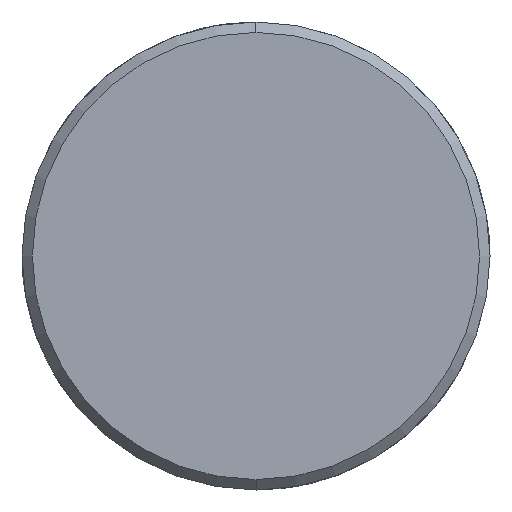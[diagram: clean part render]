
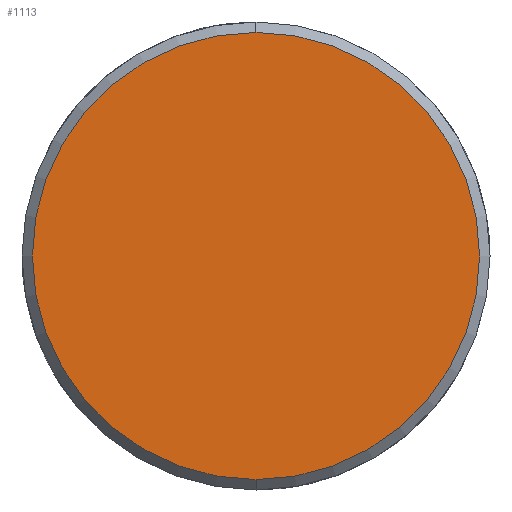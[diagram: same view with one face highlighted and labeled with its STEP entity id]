
A CAD part, left-side view. The second image highlights one B-rep face of the part: STEP entity #1113.
In plain terms, the highlighted planar face has unit normal (-1, 0, 0).
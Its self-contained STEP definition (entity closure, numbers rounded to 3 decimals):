
#1045=CARTESIAN_POINT('Vertex',(-7.,0.,-21.5)) ;
#1048=CARTESIAN_POINT('Axis2P3D Location',(-7.,0.,0.)) ;
#1052=CARTESIAN_POINT('Vertex',(-7.,21.5,0.)) ;
#1055=CARTESIAN_POINT('Axis2P3D Location',(-7.,0.,0.)) ;
#1059=CARTESIAN_POINT('Vertex',(-7.,0.,21.5)) ;
#1081=CARTESIAN_POINT('Axis2P3D Location',(-7.,0.,0.)) ;
#1085=CARTESIAN_POINT('Vertex',(-7.,-21.5,0.)) ;
#1088=CARTESIAN_POINT('Axis2P3D Location',(-7.,0.,0.)) ;
#1102=CARTESIAN_POINT('Axis2P3D Location',(-7.,0.,0.)) ;
#1049=DIRECTION('Axis2P3D Direction',(1.,0.,-0.)) ;
#1056=DIRECTION('Axis2P3D Direction',(1.,0.,-0.)) ;
#1082=DIRECTION('Axis2P3D Direction',(1.,0.,-0.)) ;
#1089=DIRECTION('Axis2P3D Direction',(1.,0.,-0.)) ;
#1103=DIRECTION('Axis2P3D Direction',(1.,0.,-0.)) ;
#1104=DIRECTION('Axis2P3D XDirection',(-0.,0.,-1.)) ;
#1050=AXIS2_PLACEMENT_3D('Circle Axis2P3D',#1048,#1049,$) ;
#1057=AXIS2_PLACEMENT_3D('Circle Axis2P3D',#1055,#1056,$) ;
#1083=AXIS2_PLACEMENT_3D('Circle Axis2P3D',#1081,#1082,$) ;
#1090=AXIS2_PLACEMENT_3D('Circle Axis2P3D',#1088,#1089,$) ;
#1105=AXIS2_PLACEMENT_3D('Plane Axis2P3D',#1102,#1103,#1104) ;
#1108=ORIENTED_EDGE('',*,*,#1054,.F.) ;
#1109=ORIENTED_EDGE('',*,*,#1092,.F.) ;
#1110=ORIENTED_EDGE('',*,*,#1087,.F.) ;
#1111=ORIENTED_EDGE('',*,*,#1061,.F.) ;
#1113=ADVANCED_FACE('351-32X96X160',(#1112),#1106,.F.) ;
#1051=CIRCLE('generated circle',#1050,21.5) ;
#1058=CIRCLE('generated circle',#1057,21.5) ;
#1084=CIRCLE('generated circle',#1083,21.5) ;
#1091=CIRCLE('generated circle',#1090,21.5) ;
#1054=EDGE_CURVE('',#1046,#1053,#1051,.T.) ;
#1061=EDGE_CURVE('',#1053,#1060,#1058,.T.) ;
#1087=EDGE_CURVE('',#1060,#1086,#1084,.T.) ;
#1092=EDGE_CURVE('',#1086,#1046,#1091,.T.) ;
#1107=EDGE_LOOP('',(#1108,#1109,#1110,#1111)) ;
#1112=FACE_OUTER_BOUND('',#1107,.T.) ;
#1106=PLANE('Plane',#1105) ;
#1046=VERTEX_POINT('',#1045) ;
#1053=VERTEX_POINT('',#1052) ;
#1060=VERTEX_POINT('',#1059) ;
#1086=VERTEX_POINT('',#1085) ;
